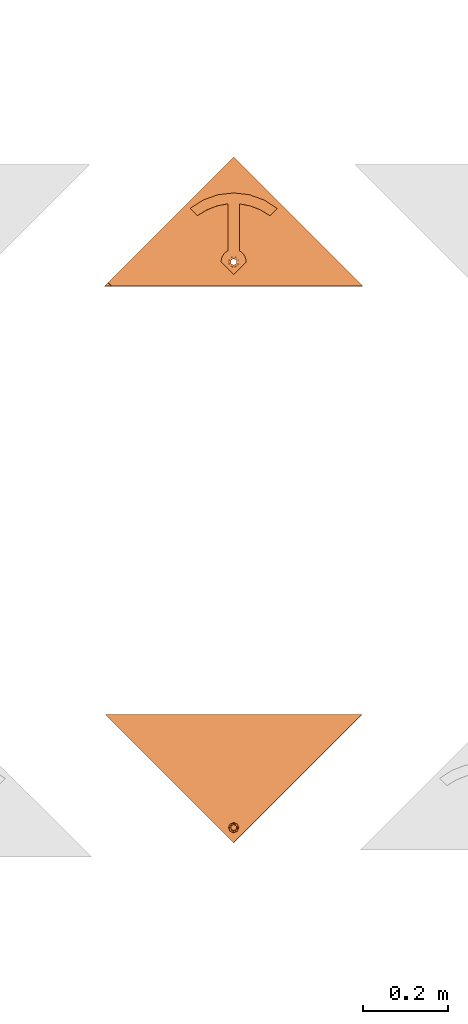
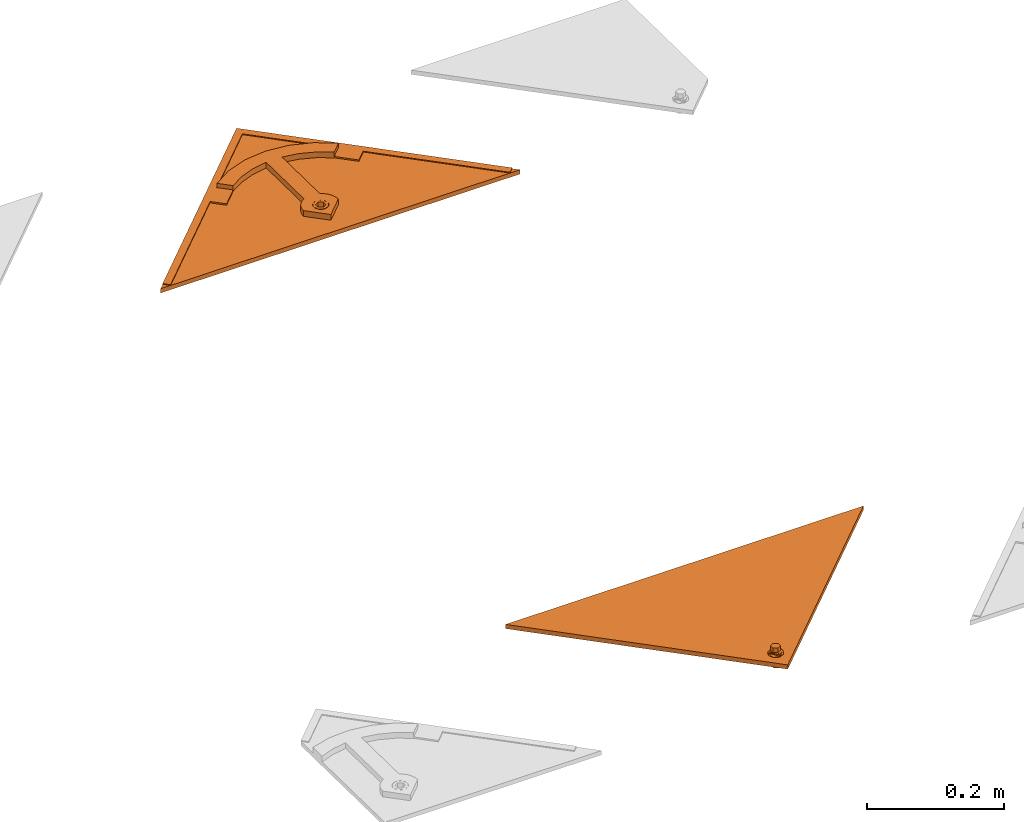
# One storey, part 110 of 133: 2 proxies.
"""IFC2X3 building model written with IfcOpenShell, lengths in millimetres."""

from ifc_helpers import new_model, entity, si_unit, converted_unit, derived_unit, direction, frame, origin, place, context, subcontext, project, spatial, faceted_brep, source, transform, mapped, material, material_list, type_object, type_shapes, element, save


model = new_model("IFC2X3")

# Units and contexts
model_context = context("Model", 3, precision=0.01, world=origin(), true_north=direction((6.12303176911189e-17, 1.0)))
body_context = subcontext(model_context, "Body", "Model", "MODEL_VIEW")
ifc_project = project(units=[si_unit("LENGTHUNIT", "METRE", prefix="MILLI"), si_unit("AREAUNIT", "SQUARE_METRE"), si_unit("VOLUMEUNIT", "CUBIC_METRE"), converted_unit("PLANEANGLEUNIT", "DEGREE", entity("IfcRatioMeasure", 0.0174532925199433), si_unit("PLANEANGLEUNIT", "RADIAN"), dimensions=[0, 0, 0, 0, 0, 0, 0]), si_unit("MASSUNIT", "GRAM", prefix="KILO"), derived_unit("MASSDENSITYUNIT", [(si_unit("MASSUNIT", "GRAM", prefix="KILO"), 1), (si_unit("LENGTHUNIT", "METRE"), -3)]), si_unit("TIMEUNIT", "SECOND"), si_unit("FREQUENCYUNIT", "HERTZ"), si_unit("THERMODYNAMICTEMPERATUREUNIT", "DEGREE_CELSIUS"), derived_unit("THERMALTRANSMITTANCEUNIT", [(si_unit("MASSUNIT", "GRAM", prefix="KILO"), 1), (si_unit("THERMODYNAMICTEMPERATUREUNIT", "KELVIN"), -1), (si_unit("TIMEUNIT", "SECOND"), -3)]), derived_unit("VOLUMETRICFLOWRATEUNIT", [(si_unit("LENGTHUNIT", "METRE"), 3), (si_unit("TIMEUNIT", "SECOND"), -1)]), si_unit("ELECTRICCURRENTUNIT", "AMPERE"), si_unit("ELECTRICVOLTAGEUNIT", "VOLT"), si_unit("POWERUNIT", "WATT"), si_unit("FORCEUNIT", "NEWTON", prefix="KILO"), si_unit("ILLUMINANCEUNIT", "LUX"), si_unit("LUMINOUSFLUXUNIT", "LUMEN"), si_unit("LUMINOUSINTENSITYUNIT", "CANDELA"), derived_unit("USERDEFINED", [(si_unit("MASSUNIT", "GRAM", prefix="KILO"), -1), (si_unit("LENGTHUNIT", "METRE"), -2), (si_unit("TIMEUNIT", "SECOND"), 3), (si_unit("LUMINOUSFLUXUNIT", "LUMEN"), 1)]), derived_unit("LINEARVELOCITYUNIT", [(si_unit("LENGTHUNIT", "METRE"), 1), (si_unit("TIMEUNIT", "SECOND"), -1)]), si_unit("PRESSUREUNIT", "PASCAL"), derived_unit("USERDEFINED", [(si_unit("LENGTHUNIT", "METRE"), -2), (si_unit("MASSUNIT", "GRAM", prefix="KILO"), 1), (si_unit("TIMEUNIT", "SECOND"), -2)])], contexts=[model_context])

# Site, building, storey
site_placement = place(None, origin())
site = spatial("IfcSite", under=ifc_project, at=site_placement, Name="Default", CompositionType="ELEMENT")
building_placement = place(site_placement, origin())
building = spatial("IfcBuilding", under=site, at=building_placement, CompositionType="ELEMENT")
storey_placement = place(building_placement, origin())
storey = spatial("IfcBuildingStorey", under=building, at=storey_placement, Name="Level 1", CompositionType="ELEMENT", Elevation=0.0)

# Proxies
ifc_material_1 = material(Name="Rubber - Sunstyle - Black")
ifc_material_2 = material(Name="Glass - Sunstyle - Tainted Black")
ifc_material_list_1 = material_list([ifc_material_1, ifc_material_2])
ifc_material_list_2 = material_list([ifc_material_1, ifc_material_2])
building_element_proxy_type_1 = type_object("IfcBuildingElementProxyType", Name="Shingle Top Small - Black", PredefinedType="NOTDEFINED", material=ifc_material_list_2)
shared_shape_1 = source(origin(), body_context, "Body", "Brep", [
    faceted_brep([(300.675008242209, 41.77298489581, 1.59527223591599), (294.900805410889, 38.4397147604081, 1.65109621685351), (294.900805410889, 38.8080238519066, 23.6429655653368), (300.675008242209, 42.1412939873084, 23.5871415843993), (294.900805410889, 31.7731744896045, 1.76274417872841), (294.900805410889, 32.1414835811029, 23.7546135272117), (300.675008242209, 28.4399043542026, 1.81856815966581), (300.675008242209, 28.808213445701, 23.8104375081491), (306.44921107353, 31.7731744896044, 1.7627441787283), (306.44921107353, 32.1414835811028, 23.7546135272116), (306.44921107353, 38.4397147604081, 1.65109621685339), (306.44921107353, 38.8080238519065, 23.6429655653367), (292.071304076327, 26.8722558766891, 23.8428599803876), (300.675008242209, 23.3089846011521, 23.9025359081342), (288.507533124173, 35.4747537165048, 23.6987895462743), (292.071304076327, 44.0772515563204, 23.5547191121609), (300.675008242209, 47.6405228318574, 23.4950431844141), (309.278712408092, 44.0772515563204, 23.5547191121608), (312.842483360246, 35.4747537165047, 23.6987895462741), (309.278712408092, 26.872255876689, 23.8428599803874), (289.350763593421, 37.7698308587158, 26.0116314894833), (290.91853368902, 35.5457686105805, 27.9391141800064), (300.67500824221, 42.8588438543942, 28.5718145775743), (300.67500824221, 44.0993414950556, 27.9914679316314), (300.675008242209, 46.2568923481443, 26.98209285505), (300.675008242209, 23.8650286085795, 25.1775938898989), (300.675008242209, 24.8086052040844, 27.3412982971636), (300.675008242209, 28.2579809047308, 28.8163427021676), (300.675008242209, 47.1274867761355, 24.7880055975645), (294.35176254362, 31.9081966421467, 28.7552106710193), (294.35176254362, 39.2086281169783, 28.6329466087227), (311.999252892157, 33.2584106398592, 26.0871865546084), (310.523888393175, 34.4713621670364, 27.8602460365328), (306.998253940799, 39.2086281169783, 28.6329466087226), (306.998253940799, 31.9081966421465, 28.7552106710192), (294.35176254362, 32.0422251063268, 36.7580988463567), (300.67500824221, 28.3920093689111, 36.8192308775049), (300.67500824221, 35.6924408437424, 36.6969668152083), (294.35176254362, 39.342656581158, 36.6358347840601), (306.998253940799, 32.0422251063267, 36.7580988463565), (306.998253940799, 39.342656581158, 36.6358347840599), (300.67500824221, 42.9928723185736, 36.5747027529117), (300.675008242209, 35.1064446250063, 1.7069201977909)], [[[0, 1, 2, 3]], [[1, 4, 5, 2]], [[4, 6, 7, 5]], [[6, 8, 9, 7]], [[8, 10, 11, 9]], [[10, 0, 3, 11]], [[12, 7, 13]], [[7, 12, 5]], [[14, 5, 12]], [[5, 14, 2]], [[15, 2, 14]], [[3, 2, 15]], [[15, 16, 3]], [[16, 17, 3]], [[11, 3, 17]], [[11, 17, 18]], [[9, 11, 18]], [[18, 19, 9]], [[7, 9, 19]], [[19, 13, 7]], [[20, 14, 12]], [[21, 22, 23, 24]], [[24, 20, 21]], [[25, 20, 12]], [[26, 27, 21]], [[15, 14, 20]], [[12, 13, 25]], [[20, 28, 15]], [[28, 20, 24]], [[21, 27, 29]], [[21, 29, 30]], [[26, 21, 20]], [[20, 25, 26]], [[15, 28, 16]], [[21, 30, 22]], [[31, 18, 17]], [[28, 31, 17]], [[32, 27, 26]], [[26, 31, 32]], [[26, 25, 31]], [[25, 19, 31]], [[17, 16, 28]], [[31, 19, 18]], [[24, 31, 28]], [[33, 34, 32]], [[23, 22, 33]], [[24, 32, 31]], [[27, 32, 34]], [[32, 23, 33]], [[19, 25, 13]], [[32, 24, 23]], [[35, 36, 37]], [[37, 38, 35]], [[36, 39, 37]], [[40, 37, 39]], [[37, 40, 41]], [[37, 41, 38]], [[42, 6, 4]], [[4, 1, 42]], [[1, 0, 42]], [[42, 8, 6]], [[0, 10, 42]], [[8, 42, 10]], [[22, 30, 38, 41]], [[30, 29, 35, 38]], [[29, 27, 36, 35]], [[27, 34, 39, 36]], [[34, 33, 40, 39]], [[33, 22, 41, 40]]]),
    faceted_brep([(601.350661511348, 300.716609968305, 19.1616152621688), (307.603211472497, 39.4797476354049, 23.5366826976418), (308.402414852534, 37.5505705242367, 23.5689916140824), (306.331862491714, 41.1363695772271, 23.5089384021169), (308.675008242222, 35.4803084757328, 23.6036633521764), (304.675008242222, 42.4075403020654, 23.4876494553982), (302.745560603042, 43.206631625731, 23.4742666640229), (300.675008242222, 43.4791867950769, 23.4697020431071), (308.402414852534, 33.4100464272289, 23.6383350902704), (300.675330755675, 0.125588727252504, 24.1957669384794), (0.0, 300.716609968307, 19.1616152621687), (298.604455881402, 43.2066316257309, 23.4742666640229), (296.675008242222, 42.4075403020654, 23.4876494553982), (295.018153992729, 41.136369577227, 23.5089384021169), (293.746805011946, 39.4797476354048, 23.5366826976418), (292.947601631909, 37.5505705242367, 23.5689916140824), (292.675008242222, 35.4803084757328, 23.6036633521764), (292.947601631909, 33.4100464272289, 23.6383350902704), (293.746805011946, 31.4808693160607, 23.6706440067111), (307.603211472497, 31.4808693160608, 23.6706440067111), (306.331862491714, 29.8242473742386, 23.698388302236), (304.675008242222, 28.5530766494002, 23.7196772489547), (302.745560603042, 27.7539853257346, 23.73306004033), (300.675008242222, 27.4814301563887, 23.7376246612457), (298.604455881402, 27.7539853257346, 23.73306004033), (296.675008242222, 28.5530766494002, 23.7196772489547), (295.018153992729, 29.8242473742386, 23.698388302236), (0.0, 300.591021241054, 11.6626668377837), (295.018153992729, 41.0107808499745, 16.0099899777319), (293.746805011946, 39.3541589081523, 16.0377342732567), (296.675008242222, 42.2819515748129, 15.9887010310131), (292.947601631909, 37.4249817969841, 16.0700431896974), (298.604455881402, 43.0810428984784, 15.9753182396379), (300.675008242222, 43.3535980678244, 15.9707536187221), (601.350661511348, 300.591021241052, 11.6626668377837), (292.675008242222, 35.3547197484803, 16.1047149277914), (292.947601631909, 33.2844576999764, 16.1393866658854), (300.675330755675, 0.0, 16.6968185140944), (302.745560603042, 43.0810428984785, 15.9753182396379), (304.675008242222, 42.2819515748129, 15.9887010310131), (306.331862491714, 41.0107808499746, 16.0099899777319), (307.603211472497, 39.3541589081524, 16.0377342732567), (308.402414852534, 37.4249817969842, 16.0700431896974), (308.675008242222, 35.3547197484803, 16.1047149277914), (308.402414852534, 33.2844576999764, 16.1393866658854), (307.603211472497, 31.3552805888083, 16.171695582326), (293.746805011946, 31.3552805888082, 16.171695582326), (295.018153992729, 29.6986586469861, 16.1994398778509), (296.675008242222, 28.4274879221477, 16.2207288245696), (298.604455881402, 27.6283965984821, 16.2341116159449), (300.675008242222, 27.3558414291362, 16.2386762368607), (302.745560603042, 27.6283965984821, 16.2341116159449), (304.675008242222, 28.4274879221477, 16.2207288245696), (306.331862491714, 29.6986586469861, 16.1994398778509)], [[[0, 1, 2]], [[1, 0, 3]], [[0, 2, 4]], [[5, 3, 0]], [[6, 5, 0]], [[0, 7, 6]], [[4, 8, 0]], [[8, 9, 0]], [[7, 0, 10]], [[11, 7, 10]], [[12, 11, 10]], [[10, 13, 12]], [[13, 10, 14]], [[15, 14, 10]], [[10, 16, 15]], [[17, 16, 10]], [[10, 9, 17]], [[17, 9, 18]], [[8, 19, 9]], [[20, 9, 19]], [[20, 21, 9]], [[22, 9, 21]], [[23, 9, 22]], [[23, 24, 9]], [[24, 25, 9]], [[25, 26, 9]], [[9, 26, 18]], [[27, 28, 29]], [[28, 27, 30]], [[27, 29, 31]], [[32, 30, 27]], [[33, 32, 27]], [[27, 34, 33]], [[31, 35, 27]], [[35, 36, 27]], [[27, 36, 37]], [[38, 33, 34]], [[39, 38, 34]], [[40, 39, 34]], [[34, 41, 40]], [[41, 34, 42]], [[43, 42, 34]], [[34, 44, 43]], [[37, 44, 34]], [[45, 44, 37]], [[37, 36, 46]], [[37, 46, 47]], [[47, 48, 37]], [[48, 49, 37]], [[50, 37, 49]], [[50, 51, 37]], [[37, 51, 52]], [[52, 53, 37]], [[45, 37, 53]], [[9, 10, 27, 37]], [[0, 9, 37, 34]], [[16, 35, 31, 15]], [[15, 31, 29, 14]], [[12, 13, 28, 30]], [[28, 13, 14, 29]], [[11, 12, 30, 32]], [[11, 32, 33, 7]], [[7, 33, 38, 6]], [[6, 38, 39, 5]], [[1, 3, 40, 41]], [[40, 3, 5, 39]], [[2, 1, 41, 42]], [[2, 42, 43, 4]], [[4, 43, 44, 8]], [[8, 44, 45, 19]], [[21, 20, 53, 52]], [[53, 20, 19, 45]], [[22, 21, 52, 51]], [[22, 51, 50, 23]], [[23, 50, 49, 24]], [[24, 49, 48, 25]], [[18, 26, 47, 46]], [[47, 26, 25, 48]], [[17, 18, 46, 36]], [[17, 36, 35, 16]], [[10, 0, 34, 27]]]),
])
type_shapes(building_element_proxy_type_1, [shared_shape_1])
proxy_1_placement = place(storey_placement, frame((-634.986913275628, 8493.60745243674, 2.4110968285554)))
element("IfcBuildingElementProxy", 1, at=proxy_1_placement, inside=storey, type_object=building_element_proxy_type_1, material=ifc_material_list_1, Name="Roofing_Panels_SunStyle_Tile_Shingle-Top-Small:Shingle Top Small - Black", ObjectType="Roofing_Panels_SunStyle_Tile_Shingle-Top-Small:Shingle Top Small - Black", context=body_context, shape_type="MappedRepresentation", body=[
    mapped(shared_shape_1, transform((0.0, 0.0, 0.0), scale=1.0)),
])
ifc_material_list_3 = material_list([ifc_material_1, ifc_material_2])
ifc_material_list_4 = material_list([ifc_material_1, ifc_material_2])
building_element_proxy_type_2 = type_object("IfcBuildingElementProxyType", Name="Shingle Bottom Small - Black", PredefinedType="NOTDEFINED", material=ifc_material_list_4)
shared_shape_2 = source(origin(), body_context, "Body", "Brep", [
    faceted_brep([(302.08842791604, 44.9093317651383, 22.0558382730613), (302.08842791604, 49.408700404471, 21.980485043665), (293.484723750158, 48.4726030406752, 21.9961623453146), (310.692132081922, 48.4726030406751, 21.9961623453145), (308.728656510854, 53.2419006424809, 21.9162884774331), (314.255903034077, 57.0751008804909, 21.8520919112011), (308.728656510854, 60.9083011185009, 21.7878953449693), (310.692132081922, 65.6775987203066, 21.7080214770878), (302.08842791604, 64.7415013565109, 21.7236987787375), (302.08842791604, 69.2408699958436, 21.6483455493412), (293.484723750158, 65.6775987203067, 21.708021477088), (295.448199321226, 60.908301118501, 21.7878953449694), (289.920952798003, 57.0751008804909, 21.8520919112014), (295.448199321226, 53.2419006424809, 21.9162884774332), (295.448199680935, 60.6403782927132, 5.79013870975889), (302.08842791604, 64.473578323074, 5.72594214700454), (295.448199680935, 52.9739782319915, 5.91853183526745), (302.08842791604, 49.1407782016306, 5.98272839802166), (308.728656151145, 52.9739782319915, 5.91853183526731), (308.728656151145, 60.6403782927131, 5.79013870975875), (293.484723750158, 48.2046804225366, 5.99840570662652), (302.08842791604, 44.6414091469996, 6.05808163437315), (289.920952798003, 56.8071782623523, 5.85433527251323), (293.484723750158, 65.4096761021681, 5.71026483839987), (302.08842791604, 68.972947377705, 5.65058891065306), (310.692132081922, 65.409676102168, 5.71026483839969), (314.255903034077, 56.8071782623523, 5.85433527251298), (310.692132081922, 48.2046804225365, 5.99840570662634)], [[[0, 1, 2]], [[1, 0, 3]], [[3, 4, 1]], [[4, 3, 5]], [[6, 4, 5]], [[5, 7, 6]], [[7, 8, 6]], [[8, 7, 9]], [[8, 9, 10]], [[10, 11, 8]], [[12, 11, 10]], [[2, 13, 12]], [[12, 13, 11]], [[13, 2, 1]], [[8, 11, 14, 15]], [[11, 13, 16, 14]], [[13, 1, 17, 16]], [[1, 4, 18, 17]], [[4, 6, 19, 18]], [[6, 8, 15, 19]], [[20, 17, 21]], [[17, 20, 16]], [[22, 16, 20]], [[14, 16, 22]], [[23, 14, 22]], [[15, 14, 23]], [[23, 24, 15]], [[24, 25, 15]], [[19, 15, 25]], [[19, 25, 26]], [[26, 18, 19]], [[26, 27, 18]], [[17, 18, 27]], [[27, 21, 17]], [[24, 23, 10, 9]], [[10, 23, 22, 12]], [[20, 21, 0, 2]], [[20, 2, 12, 22]], [[21, 27, 3, 0]], [[3, 27, 26, 5]], [[25, 24, 9, 7]], [[25, 7, 5, 26]]]),
    faceted_brep([(587.35835892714, 0.0, 12.5593198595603), (595.843045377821, 8.4846864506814, 12.4172224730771), (595.843045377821, 8.50980419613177, 13.9170121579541), (587.35835892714, 0.0251177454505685, 14.0591095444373), (302.088750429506, 285.189618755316, 7.7831033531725), (16.8191419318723, 0.0, 12.5593198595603), (8.33445548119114, 8.48468645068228, 12.4172224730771), (302.088750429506, 302.156612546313, 7.49894842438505), (302.088750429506, 302.181730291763, 8.9987381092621), (8.33445548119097, 8.50980419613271, 13.9170121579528), (16.8191419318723, 0.0251177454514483, 14.0591095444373), (302.088750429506, 285.214736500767, 9.28289303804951)], [[[0, 1, 2, 3]], [[1, 0, 4, 5, 6, 7]], [[2, 1, 7, 8]], [[3, 2, 8, 9, 10, 11]], [[0, 3, 11, 4]], [[5, 10, 9, 6]], [[8, 7, 6, 9]], [[4, 11, 10, 5]]]),
    faceted_brep([(302.088750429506, 302.156612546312, 7.49894842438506), (305.194256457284, 68.3255429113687, 11.4150370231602), (308.088427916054, 67.1269059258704, 11.4351112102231), (302.088427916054, 68.7343756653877, 11.4081900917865), (310.573709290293, 65.2201498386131, 11.4670446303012), (298.982599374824, 68.3255429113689, 11.4150370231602), (296.088427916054, 67.1269059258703, 11.4351112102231), (293.603146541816, 65.2201498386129, 11.4670446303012), (312.480732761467, 62.7352169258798, 11.5086610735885), (604.177500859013, 0.152567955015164, 12.5567647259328), (291.696123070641, 62.7352169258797, 11.5086610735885), (0.0, 0.152567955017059, 12.5567647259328), (290.497318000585, 59.8414512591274, 11.5571244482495), (290.088427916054, 56.7360581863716, 11.6091320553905), (290.497318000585, 53.6306651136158, 11.6611396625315), (291.696123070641, 50.7368994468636, 11.7096030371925), (293.603146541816, 48.2519665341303, 11.7512194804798), (296.088427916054, 46.3452104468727, 11.7831529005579), (298.982599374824, 45.1465734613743, 11.8032270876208), (302.088427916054, 44.7377407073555, 11.8100740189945), (313.679537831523, 59.8414512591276, 11.5571244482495), (314.088427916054, 56.7360581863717, 11.6091320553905), (313.679537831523, 53.6306651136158, 11.6611396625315), (312.480732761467, 50.7368994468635, 11.7096030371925), (310.573709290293, 48.2519665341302, 11.7512194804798), (308.088427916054, 46.3452104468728, 11.7831529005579), (305.194256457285, 45.1465734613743, 11.8032270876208), (0.0, 0.0269792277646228, 5.0578163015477), (290.088427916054, 56.6104694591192, 4.11018363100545), (290.497318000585, 53.5050763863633, 4.16219123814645), (290.497318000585, 59.7158625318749, 4.05817602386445), (291.696123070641, 50.6113107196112, 4.21065461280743), (291.696123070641, 62.6096281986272, 4.00971264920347), (302.088750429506, 302.031023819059, 0.0), (293.603146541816, 48.1263778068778, 4.25227105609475), (296.088427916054, 46.2196217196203, 4.28420447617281), (298.982599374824, 45.0209847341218, 4.30427866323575), (302.088427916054, 44.612151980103, 4.31112559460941), (604.177500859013, 0.0269792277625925, 5.05781630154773), (293.603146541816, 65.0945611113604, 3.96809620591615), (296.088427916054, 67.0013171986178, 3.93616278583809), (298.982599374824, 68.1999541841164, 3.91608859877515), (302.088427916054, 68.6087869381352, 3.90924166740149), (305.194256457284, 68.1999541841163, 3.91608859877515), (308.088427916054, 67.0013171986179, 3.93616278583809), (310.573709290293, 65.0945611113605, 3.96809620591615), (312.480732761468, 62.6096281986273, 4.00971264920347), (305.194256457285, 45.0209847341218, 4.30427866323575), (308.088427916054, 46.2196217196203, 4.28420447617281), (313.679537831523, 59.7158625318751, 4.05817602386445), (314.088427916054, 56.6104694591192, 4.11018363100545), (313.679537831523, 53.5050763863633, 4.16219123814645), (312.480732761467, 50.611310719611, 4.21065461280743), (310.573709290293, 48.1263778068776, 4.25227105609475)], [[[0, 1, 2]], [[1, 0, 3]], [[0, 2, 4]], [[5, 3, 0]], [[6, 5, 0]], [[0, 7, 6]], [[8, 0, 4]], [[0, 8, 9]], [[7, 0, 10]], [[0, 11, 10]], [[12, 10, 11]], [[11, 13, 12]], [[13, 11, 14]], [[15, 14, 11]], [[11, 16, 15]], [[17, 16, 11]], [[17, 11, 18]], [[19, 18, 11]], [[19, 11, 9]], [[9, 8, 20]], [[20, 21, 9]], [[21, 22, 9]], [[22, 23, 9]], [[9, 23, 24]], [[24, 25, 9]], [[25, 26, 9]], [[9, 26, 19]], [[27, 28, 29]], [[28, 27, 30]], [[27, 29, 31]], [[32, 30, 27]], [[32, 27, 33]], [[31, 34, 27]], [[34, 35, 27]], [[35, 36, 27]], [[36, 37, 27]], [[27, 37, 38]], [[33, 39, 32]], [[40, 39, 33]], [[41, 40, 33]], [[42, 41, 33]], [[33, 43, 42]], [[43, 33, 44]], [[45, 44, 33]], [[33, 46, 45]], [[46, 33, 38]], [[38, 37, 47]], [[47, 48, 38]], [[49, 46, 38]], [[38, 50, 49]], [[50, 38, 51]], [[52, 51, 38]], [[53, 52, 38]], [[53, 38, 48]], [[11, 0, 33, 27]], [[0, 9, 38, 33]], [[13, 28, 30, 12]], [[12, 30, 32, 10]], [[6, 7, 39, 40]], [[39, 7, 10, 32]], [[5, 6, 40, 41]], [[5, 41, 42, 3]], [[3, 42, 43, 1]], [[1, 43, 44, 2]], [[8, 4, 45, 46]], [[45, 4, 2, 44]], [[20, 8, 46, 49]], [[20, 49, 50, 21]], [[21, 50, 51, 22]], [[22, 51, 52, 23]], [[25, 24, 53, 48]], [[53, 24, 23, 52]], [[26, 25, 48, 47]], [[26, 47, 37, 19]], [[19, 37, 36, 18]], [[18, 36, 35, 17]], [[15, 16, 34, 31]], [[34, 16, 17, 35]], [[14, 15, 31, 29]], [[14, 29, 28, 13]], [[9, 11, 27, 38]]]),
    faceted_brep([(190.819384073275, 138.646056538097, 12.7376939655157), (217.144031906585, 164.967013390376, 12.2968834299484), (200.060856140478, 182.04779392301, 12.0108228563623), (193.80845410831, 176.686146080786, 12.100617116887), (187.837458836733, 171.012871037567, 12.1956303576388), (173.141714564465, 156.321247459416, 12.4416784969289), (431.035141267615, 156.321247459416, 12.4416784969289), (416.339396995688, 171.012871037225, 12.1956303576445), (410.36840172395, 176.686146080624, 12.1006171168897), (404.115999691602, 182.047793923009, 12.0108228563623), (387.031626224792, 164.968210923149, 12.2968633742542), (413.357471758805, 138.646056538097, 12.7376939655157), (296.088427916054, 67.294357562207, 21.4337091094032), (288.788427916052, 83.1076295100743, 21.1688761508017), (283.384321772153, 79.569581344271, 21.2281296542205), (293.603146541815, 65.3876014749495, 21.4656425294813), (298.982599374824, 68.4929945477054, 21.4136349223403), (302.088427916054, 68.9018273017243, 21.4067879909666), (315.388427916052, 83.107629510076, 21.1688761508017), (305.194256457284, 68.4929945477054, 21.4136349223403), (308.088427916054, 67.2943575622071, 21.4337091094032), (320.792534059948, 79.5695813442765, 21.2281296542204), (310.573709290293, 65.3876014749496, 21.4656425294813), (325.293078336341, 74.9365758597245, 21.3057209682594), (312.480732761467, 62.9026685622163, 21.5072589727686), (328.672647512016, 69.4324252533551, 21.3979017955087), (313.679537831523, 60.0089028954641, 21.5557223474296), (330.767980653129, 63.323025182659, 21.500219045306), (314.088427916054, 56.9035098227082, 21.6077299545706), (331.477855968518, 56.9035098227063, 21.6077299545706), (313.679537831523, 53.7981167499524, 21.6597375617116), (312.480732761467, 50.9043510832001, 21.7082009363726), (310.573709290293, 48.4194181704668, 21.7498173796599), (302.08842791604, 27.5182024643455, 22.0998607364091), (308.088427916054, 46.5126620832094, 21.7817507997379), (305.194256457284, 45.314025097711, 21.8018249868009), (302.088427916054, 44.9051923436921, 21.8086719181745), (298.982599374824, 45.314025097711, 21.8018249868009), (296.088427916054, 46.5126620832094, 21.7817507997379), (293.603146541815, 48.4194181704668, 21.7498173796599), (272.69899986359, 56.903509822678, 21.6077299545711), (291.696123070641, 50.9043510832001, 21.7082009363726), (290.497318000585, 53.7981167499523, 21.6597375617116), (290.088427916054, 56.9035098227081, 21.6077299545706), (273.408875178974, 63.3230251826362, 21.5002190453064), (290.497318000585, 60.008902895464, 21.5557223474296), (275.504208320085, 69.4324252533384, 21.397901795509), (291.696123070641, 62.9026685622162, 21.5072589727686), (278.883777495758, 74.9365758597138, 21.3057209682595), (288.788427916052, 192.984512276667, 19.3287117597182), (315.388427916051, 192.984512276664, 19.3287117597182), (302.088427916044, 218.456125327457, 18.9021256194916), (338.579268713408, 214.282159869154, 18.9720291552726), (340.858170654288, 188.169632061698, 19.4093490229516), (373.184513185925, 201.975945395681, 19.1781276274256), (365.012761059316, 178.765998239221, 19.5668364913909), (404.115999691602, 182.173382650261, 19.5097712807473), (387.032823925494, 165.092602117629, 19.7958318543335), (265.59758711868, 214.28215986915, 18.9720291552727), (263.318685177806, 188.169632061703, 19.4093490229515), (230.992342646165, 201.975945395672, 19.1781276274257), (239.164094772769, 178.765998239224, 19.5668364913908), (200.06085614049, 182.173382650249, 19.5097712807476), (217.144031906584, 165.092602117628, 19.7958318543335), (302.08842791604, 27.3507508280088, 12.1012628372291), (302.088427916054, 44.7377407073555, 11.8100740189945), (305.194256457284, 45.1465734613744, 11.8032270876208), (298.982599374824, 45.1465734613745, 11.8032270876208), (308.088427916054, 46.3452104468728, 11.7831529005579), (310.573709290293, 48.2519665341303, 11.7512194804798), (331.477855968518, 56.7360581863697, 11.6091320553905), (296.088427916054, 46.3452104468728, 11.7831529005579), (293.603146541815, 48.2519665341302, 11.7512194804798), (272.69899986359, 56.7360581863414, 11.609132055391), (291.696123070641, 50.7368994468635, 11.7096030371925), (290.497318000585, 53.6306651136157, 11.6611396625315), (290.088427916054, 56.7360581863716, 11.6091320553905), (273.408875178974, 63.1555735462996, 11.5016211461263), (290.497318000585, 59.8414512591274, 11.5571244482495), (275.504208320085, 69.2649736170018, 11.3993038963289), (291.696123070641, 62.7352169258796, 11.5086610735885), (278.883777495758, 74.7691242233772, 11.3071230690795), (293.603146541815, 65.2201498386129, 11.4670446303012), (283.384321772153, 79.4021297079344, 11.2295317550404), (296.088427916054, 67.1269059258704, 11.4351112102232), (288.788427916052, 82.9401778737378, 11.1702782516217), (298.982599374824, 68.3255429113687, 11.4150370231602), (302.088427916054, 68.7343756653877, 11.4081900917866), (315.388427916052, 82.9401778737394, 11.1702782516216), (288.788427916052, 192.81706064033, 9.33011386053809), (315.388427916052, 192.817060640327, 9.33011386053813), (302.088427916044, 218.28867369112, 8.90352772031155), (265.59758711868, 214.114708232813, 8.97343125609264), (263.318685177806, 188.002180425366, 9.41075112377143), (230.992342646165, 201.808493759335, 9.17952972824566), (239.164094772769, 178.598546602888, 9.56823859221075), (200.06085614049, 182.005931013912, 9.51117338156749), (217.145229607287, 164.926348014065, 9.79721389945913), (193.80845410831, 176.644283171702, 9.60096764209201), (187.837458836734, 170.971008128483, 9.69598088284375), (190.819384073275, 138.604193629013, 10.2380444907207), (173.141714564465, 156.279384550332, 9.94202902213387), (338.579268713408, 214.114708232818, 8.97343125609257), (340.858170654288, 188.002180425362, 9.41075112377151), (373.184513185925, 201.808493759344, 9.17952972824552), (365.012761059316, 178.598546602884, 9.5682385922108), (404.115999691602, 182.005931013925, 9.51117338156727), (387.032823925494, 164.925150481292, 9.79723395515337), (410.36840172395, 176.64428317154, 9.60096764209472), (416.339396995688, 170.971008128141, 9.69598088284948), (413.357471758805, 138.604193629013, 10.2380444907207), (431.035141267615, 156.279384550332, 9.94202902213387), (305.194256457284, 68.3255429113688, 11.4150370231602), (308.088427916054, 67.1269059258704, 11.4351112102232), (320.792534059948, 79.4021297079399, 11.2295317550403), (310.573709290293, 65.220149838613, 11.4670446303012), (325.293078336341, 74.7691242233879, 11.3071230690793), (312.480732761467, 62.7352169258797, 11.5086610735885), (328.672647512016, 69.2649736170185, 11.3993038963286), (313.679537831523, 59.8414512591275, 11.5571244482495), (330.767980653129, 63.1555735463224, 11.5016211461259), (314.088427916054, 56.7360581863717, 11.6091320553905), (312.480732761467, 50.7368994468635, 11.7096030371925), (313.679537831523, 53.6306651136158, 11.6611396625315)], [[[0, 1, 2, 3, 4, 5]], [[6, 7, 8, 9, 10, 11]], [[12, 13, 14]], [[12, 14, 15]], [[16, 13, 12]], [[17, 13, 16]], [[18, 13, 17]], [[17, 19, 18]], [[19, 20, 18]], [[20, 21, 18]], [[21, 20, 22]], [[21, 22, 23]], [[24, 23, 22]], [[23, 24, 25]], [[24, 26, 25]], [[27, 25, 26]], [[26, 28, 27]], [[29, 27, 28]], [[28, 30, 29]], [[30, 31, 29]], [[29, 31, 32]], [[32, 33, 29]], [[32, 34, 33]], [[35, 33, 34]], [[36, 33, 35]], [[33, 36, 37]], [[38, 33, 37]], [[38, 39, 33]], [[40, 33, 39]], [[41, 40, 39]], [[41, 42, 40]], [[42, 43, 40]], [[43, 44, 40]], [[45, 44, 43]], [[45, 46, 44]], [[45, 47, 46]], [[48, 46, 47]], [[48, 47, 15]], [[48, 15, 14]], [[18, 49, 13]], [[50, 49, 18]], [[51, 49, 50]], [[50, 52, 51]], [[50, 53, 52]], [[52, 53, 54]], [[53, 55, 54]], [[56, 54, 55]], [[57, 56, 55]], [[58, 49, 51]], [[49, 58, 59]], [[60, 59, 58]], [[60, 61, 59]], [[61, 60, 62]], [[62, 63, 61]], [[64, 65, 66]], [[65, 64, 67]], [[64, 66, 68]], [[68, 69, 64]], [[64, 69, 70]], [[71, 67, 64]], [[71, 64, 72]], [[72, 64, 73]], [[73, 74, 72]], [[74, 73, 75]], [[75, 73, 76]], [[77, 76, 73]], [[76, 77, 78]], [[78, 77, 79]], [[80, 78, 79]], [[81, 80, 79]], [[82, 80, 81]], [[83, 82, 81]], [[83, 84, 82]], [[85, 84, 83]], [[85, 86, 84]], [[87, 86, 85]], [[88, 87, 85]], [[89, 88, 85]], [[88, 89, 90]], [[89, 91, 90]], [[91, 89, 92]], [[93, 92, 89]], [[92, 93, 94]], [[95, 94, 93]], [[96, 94, 95]], [[95, 97, 96]], [[97, 98, 96]], [[98, 97, 99]], [[97, 100, 99]], [[99, 100, 101]], [[90, 91, 102]], [[103, 90, 102]], [[103, 102, 104]], [[105, 103, 104]], [[106, 105, 104]], [[107, 105, 106]], [[106, 108, 107]], [[109, 107, 108]], [[110, 107, 109]], [[109, 111, 110]], [[112, 87, 88]], [[113, 112, 88]], [[114, 113, 88]], [[115, 113, 114]], [[115, 114, 116]], [[116, 117, 115]], [[117, 116, 118]], [[118, 119, 117]], [[120, 119, 118]], [[121, 120, 70]], [[120, 121, 119]], [[70, 69, 122]], [[122, 123, 70]], [[123, 121, 70]], [[13, 49, 89, 85]], [[14, 13, 85, 83]], [[48, 14, 83, 81]], [[81, 79, 46, 48]], [[44, 46, 79, 77]], [[40, 44, 77, 73]], [[33, 40, 73, 64]], [[0, 5, 101, 100]], [[29, 33, 64, 70]], [[6, 11, 110, 111]], [[27, 29, 70, 120]], [[25, 27, 120, 118]], [[118, 116, 23, 25]], [[21, 23, 116, 114]], [[18, 21, 114, 88]], [[50, 18, 88, 90]], [[9, 106, 104, 54, 56]], [[52, 54, 104, 102]], [[51, 52, 102, 91]], [[58, 51, 91, 92]], [[94, 96, 2, 62, 60]], [[60, 58, 92, 94]], [[43, 76, 78, 45]], [[45, 78, 80, 47]], [[12, 15, 82, 84]], [[80, 82, 15, 47]], [[16, 12, 84, 86]], [[87, 17, 16, 86]], [[19, 112, 113, 20]], [[20, 113, 115, 22]], [[26, 24, 117, 119]], [[115, 117, 24, 22]], [[28, 26, 119, 121]], [[19, 17, 87, 112]], [[28, 121, 123, 30]], [[30, 123, 122, 31]], [[34, 32, 69, 68]], [[122, 69, 32, 31]], [[35, 34, 68, 66]], [[65, 36, 35, 66]], [[37, 67, 71, 38]], [[38, 71, 72, 39]], [[42, 41, 74, 75]], [[72, 74, 41, 39]], [[43, 42, 75, 76]], [[37, 36, 65, 67]], [[7, 6, 111, 109]], [[7, 109, 108, 8]], [[108, 106, 9, 8]], [[11, 10, 107, 110]], [[1, 0, 100, 97]], [[2, 96, 98, 3]], [[98, 99, 4, 3]], [[5, 4, 99, 101]], [[63, 62, 2, 1]], [[56, 57, 10]], [[10, 9, 56]], [[1, 95, 61, 63]], [[1, 97, 95]], [[93, 89, 49, 59]], [[95, 93, 59, 61]], [[90, 103, 53, 50]], [[103, 105, 55, 53]], [[10, 57, 55]], [[107, 10, 105]], [[55, 105, 10]]]),
])
type_shapes(building_element_proxy_type_2, [shared_shape_2])
proxy_2_placement = place(storey_placement, frame((-636.400332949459, 9796.19317128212, -1.73631824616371)))
element("IfcBuildingElementProxy", 2, at=proxy_2_placement, inside=storey, type_object=building_element_proxy_type_2, material=ifc_material_list_3, Name="Roofing_Panels_SunStyle_Tile_Shingle-Bottom-Small:Shingle Bottom Small - Black", ObjectType="Roofing_Panels_SunStyle_Tile_Shingle-Bottom-Small:Shingle Bottom Small - Black", context=body_context, shape_type="MappedRepresentation", body=[
    mapped(shared_shape_2, transform((0.0, 0.0, 0.0), scale=1.0)),
])

save(model, "model.ifc")
